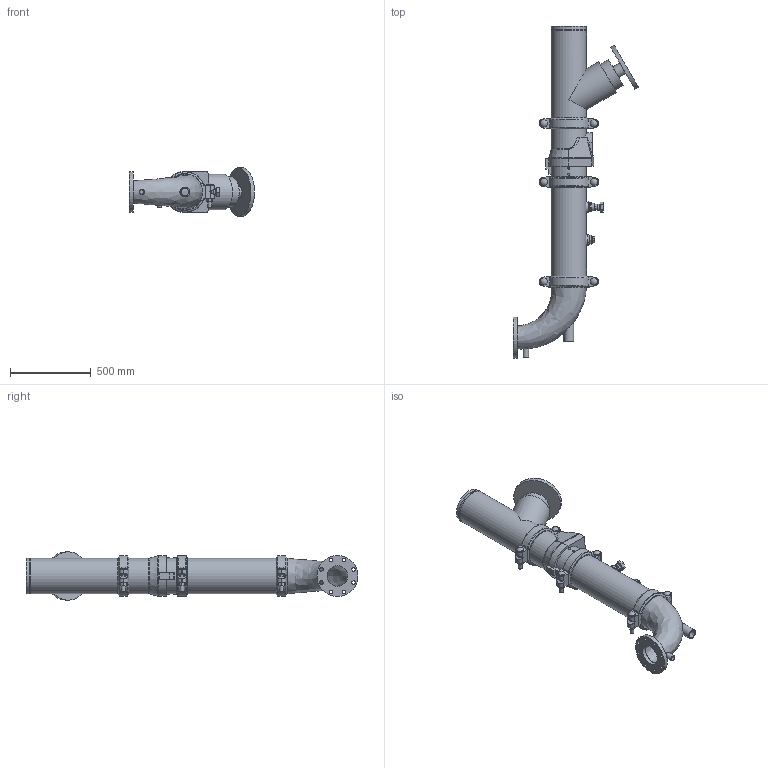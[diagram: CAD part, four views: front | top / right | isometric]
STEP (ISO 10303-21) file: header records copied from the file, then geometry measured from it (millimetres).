
FILE_DESCRIPTION(/* description */ ('VIC DVI PUMP DROP HORZ S/383 (OGSxFLG) (S/924-1.25)','CAx-IF Rec.Pracs.---Representation and Presentation of Product Manufacturing Information (PMI)---4.0---2014-10-13'),/* implementation_level */ '2;1');
FILE_NAME(/* name */ 'C:\Users\kkamble\AppData\Roaming\Autodesk\ApplicationPlugins\Victaulic.Temp\A821\CL 150_Series 383 (OGSxFLG)_924 (1.25)_08.0x05.0 (200x125).stp',/* time_stamp */ '2022-03-16T18:46:57+05:00',/* author */ ('kkamble'),/* organization */ ('Victaulic'),/* preprocessor_version */ 'ST-DEVELOPER v17.2',/* originating_system */ 'Autodesk Inventor 2019',/* authorisation */ '');
FILE_SCHEMA (('AP242_MANAGED_MODEL_BASED_3D_ENGINEERING_MIM_LF { 1 0 10303 442 1 1 4 }'));
Length unit declared in the file: inch
Products named in the file (8): 383_924 (1.25)-08.0x05.0; Pipe-08.0; 789-08.0; 177N-08.0; 779-08.0; 924-04.0x01.25; 923-04.0x0.75; R100F-08.0x05.0
Assembly tree (9 placements, depth 2):
  383_924 (1.25)-08.0x05.0
    177N-08.0  x3
    Pipe-08.0
    789-08.0
    779-08.0
    924-04.0x01.25
    923-04.0x0.75
    R100F-08.0x05.0
Bounding box: 774.7 x 2057.4 x 299.97 mm (x, y, z)
Volume: 28767790.4 mm3; surface area: 3927770.2 mm2
Topology: 9 solids, 10 shells, 531 faces, 1387 edges, 932 vertices
Faces by surface type: plane 307, cylinder 177, torus 18, cone 17, sphere 6, bspline 6
Full cylindrical faces by diameter (mm): 13.716 x4, 21.336 x1, 22.352 x8, 23.774 x6, 26.67 x3, 34.29 x1, 38.608 x1, 42.164 x1, 42.85 x6, 45.974 x4, 48.26 x1, 48.514 x1, 55.626 x2, 60.96 x1, 76.2 x1, 128.194 x1, 183.515 x1, 202.717 x4, 206.375 x3, 214.401 x7, 219.075 x18, 254 x1, 299.974 x1
Entity records: 12897 total; most frequent: CARTESIAN_POINT 3550, DIRECTION 1908, ORIENTED_EDGE 1754, EDGE_CURVE 877, AXIS2_PLACEMENT_3D 732, VERTEX_POINT 596, LINE 444, VECTOR 444
